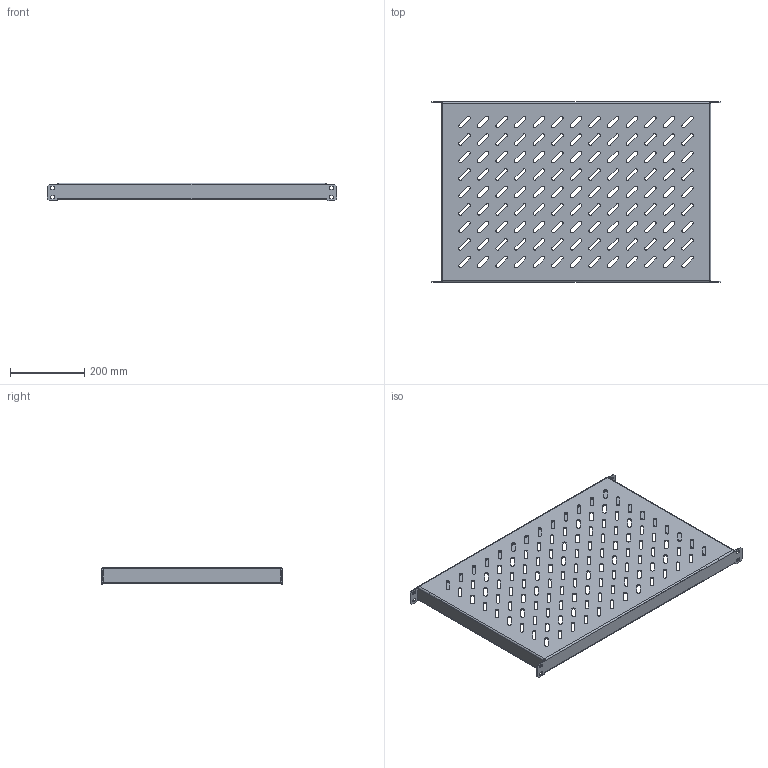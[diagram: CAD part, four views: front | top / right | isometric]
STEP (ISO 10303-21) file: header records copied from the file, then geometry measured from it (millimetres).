
FILE_DESCRIPTION (( 'STEP AP214' ), '1' );
FILE_NAME ('SH 80.60 F Ïîëêà óñèëåííàÿ.STEP', '2025-11-05T16:53:23', ( '' ), ( '' ), 'SwSTEP 2.0', 'SolidWorks 2022', '' );
FILE_SCHEMA (( 'AUTOMOTIVE_DESIGN' ));
Length unit declared in the file: millimetre
Products named in the file (1): SH 80.60 F Полка усиленная
Bounding box: 777.99 x 485 x 48 mm (x, y, z)
Volume: 1186503.5 mm3; surface area: 983300.2 mm2
Topology: 1 solids, 1 shells, 704 faces, 2060 edges, 1352 vertices
Faces by surface type: cylinder 383, plane 305, bspline 16
Entity records: 25028 total; most frequent: CARTESIAN_POINT 5221, DIRECTION 4140, ORIENTED_EDGE 4120, EDGE_CURVE 2060, AXIS2_PLACEMENT_3D 1423, VERTEX_POINT 1352, LINE 1294, VECTOR 1294
